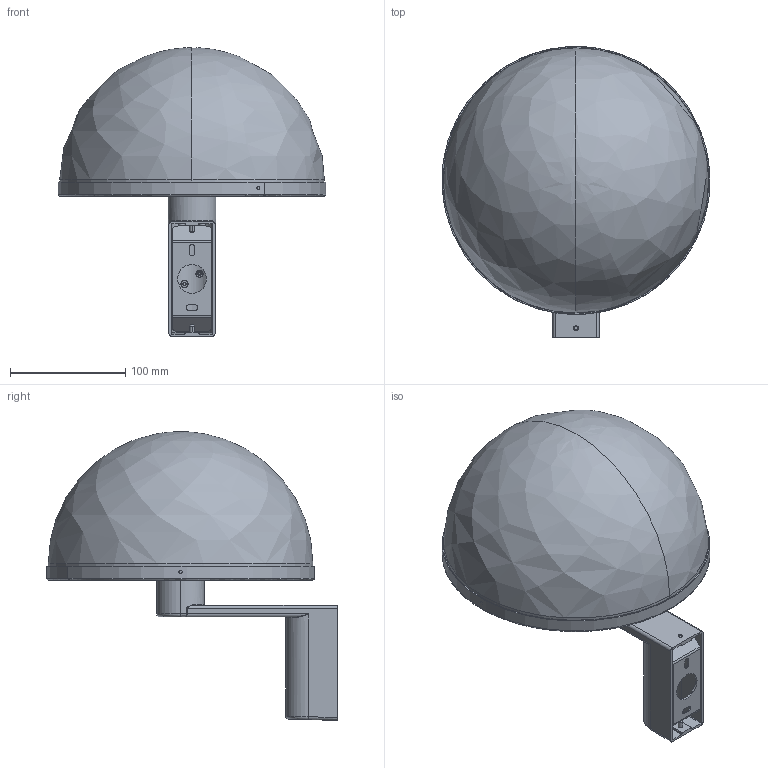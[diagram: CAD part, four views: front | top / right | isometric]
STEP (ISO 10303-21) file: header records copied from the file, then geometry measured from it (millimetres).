
FILE_DESCRIPTION(/* description */ (''),/* implementation_level */ '2;1');
FILE_NAME(/* name */ '29910_3d',/* time_stamp */ '2026-04-17T10:15:17+02:00',/* author */ (''),/* organization */ (''),/* preprocessor_version */ 'ST-DEVELOPER v19.2',/* originating_system */ 'Rhino 8.23',/* authorisation */ '');
FILE_SCHEMA (('CONFIG_CONTROL_DESIGN'));
Length unit declared in the file: millimetre
Products named in the file (2): Document; DOME 29910
Bounding box: 232.73 x 252.64 x 251 mm (x, y, z)
Volume: 119031.3 mm3; surface area: 321899.9 mm2
Topology: 14 solids, 23 shells, 831 faces, 2033 edges, 1234 vertices
Faces by surface type: bspline 314, plane 283, cylinder 234
Entity records: 37252 total; most frequent: CARTESIAN_POINT 21140, ORIENTED_EDGE 3903, EDGE_CURVE 2012, DIRECTION 1873, VERTEX_POINT 1234, AXIS2_PLACEMENT_3D 1195, B_SPLINE_CURVE_WITH_KNOTS 1143, EDGE_LOOP 914
